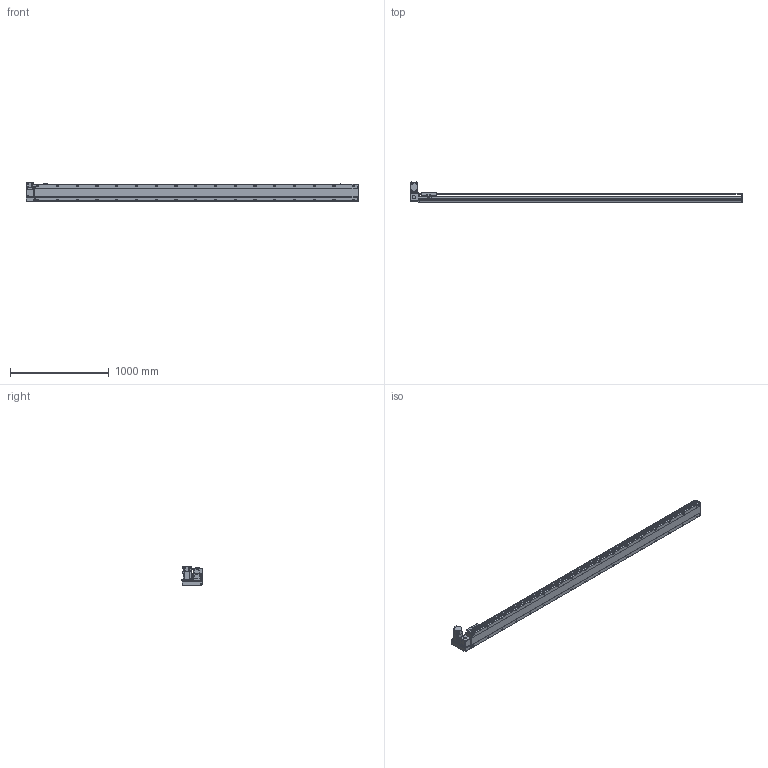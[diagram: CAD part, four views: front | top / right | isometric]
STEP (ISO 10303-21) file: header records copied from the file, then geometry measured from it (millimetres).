
FILE_DESCRIPTION( ( 'STEP AP214' ), '1' );
FILE_NAME( 'x:/temp/worker_4/temp/exporttempdir_2248_423_Ogw5I/format_0/PBS170-P40-S3000-LU-T75-C1-N(0).stp', '2022-06-07T08:18:09', ( 'License CC BY-ND 4.0' ), ( 'CADENAS' ), ' ', 'PARTsolutions', ' ' );
FILE_SCHEMA( ( 'AUTOMOTIVE_DESIGN { 1 0 10303 214 1 1 1 1 }' ) );
Length unit declared in the file: millimetre
Products named in the file (7): PBS170-P40-S3000-LU-T75-C1-N(0); _PBS170-S3000()_body; _PBS170T-LU_motors; _T75-p1; _PBS170_sliser; _PBS170_plant; _PBS170_sensor
Assembly tree (8 placements, depth 2):
  PBS170-P40-S3000-LU-T75-C1-N(0)
    _PBS170-S3000()_body
    _PBS170T-LU_motors
    _T75-p1
    _PBS170_sliser
    _PBS170_plant
    _PBS170_sensor  x3
Bounding box: 3363 x 206 x 197.3 mm (x, y, z)
Volume: 25243265.2 mm3; surface area: 3158626.8 mm2
Topology: 8 solids, 8 shells, 1226 faces, 3235 edges, 2108 vertices
Faces by surface type: plane 741, cylinder 411, cone 64, sphere 8, torus 2
Full cylindrical faces by diameter (mm): 3.242 x4, 4 x2, 4.4 x4, 4.5 x6, 4.917 x4, 6 x9, 6.647 x42, 7 x2, 7.5 x4, 8 x8, 8.5 x34, 10 x4, 10.5 x34, 11 x2, 30 x2, 40 x1, 70 x1
Entity records: 45518 total; most frequent: CARTESIAN_POINT 7733, DIRECTION 5930, ORIENTED_EDGE 5568, EDGE_CURVE 2784, AXIS2_PLACEMENT_3D 2107, VERTEX_POINT 1946, LINE 1716, VECTOR 1716
